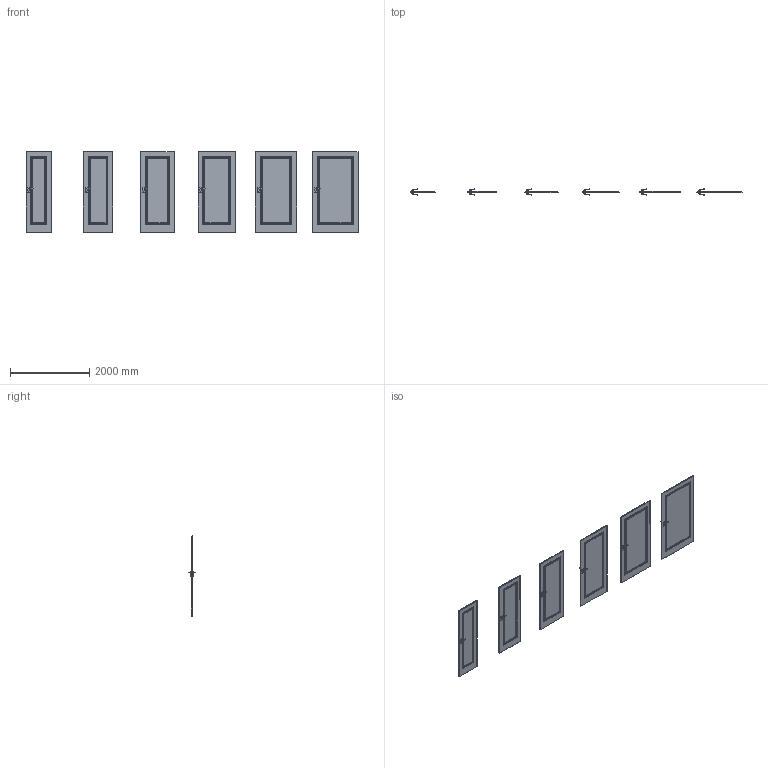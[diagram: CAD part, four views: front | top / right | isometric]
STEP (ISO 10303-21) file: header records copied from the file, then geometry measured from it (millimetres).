
FILE_DESCRIPTION(/* description */ (''),/* implementation_level */ '2;1');
FILE_NAME(/* name */ '049696_A_2-Skrzydło VECTOR U_ polska norma _PN__ przylgowe..stp',/* time_stamp */ '2024-02-13T13:22:57+01:00',/* author */ (''),/* organization */ (''),/* preprocessor_version */ 'ST-DEVELOPER v16',/* originating_system */ 'SIEMENS PLM Software NX 11.0',/* authorisation */ '');
FILE_SCHEMA (('AUTOMOTIVE_DESIGN { 1 0 10303 214 3 1 1 1 }'));
Products named in the file (1): bkni35B888B4sb3k
Bounding box: 8394 x 153.27 x 2030 mm (x, y, z)
Volume: 417651501.6 mm3; surface area: 23525945.6 mm2
Topology: 30 solids, 30 shells, 2520 faces, 5700 edges, 3216 vertices
Faces by surface type: bspline 1152, plane 936, cylinder 264, sphere 168
Entity records: 74020 total; most frequent: CARTESIAN_POINT 26029, ORIENTED_EDGE 11064, DIRECTION 8054, EDGE_CURVE 5532, LINE 3492, VECTOR 3492, VERTEX_POINT 3216, EDGE_LOOP 2688
